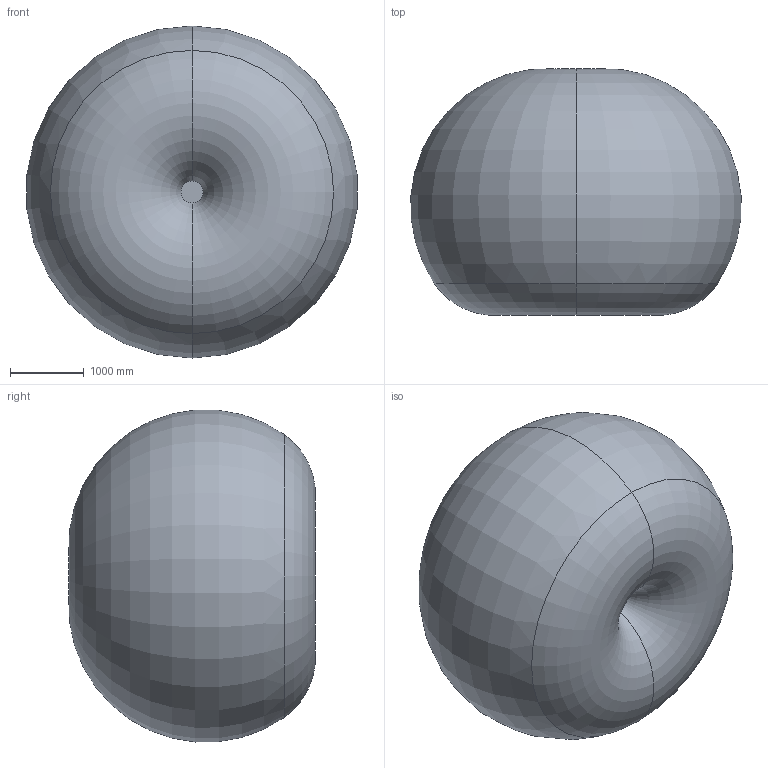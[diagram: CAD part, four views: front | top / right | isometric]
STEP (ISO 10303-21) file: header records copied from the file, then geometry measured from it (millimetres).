
FILE_DESCRIPTION (( 'STEP AP214' ), '1' );
FILE_NAME ('SMART-5 NJ-60-2.2_off-set (3D-STEP).STEP', '2014-05-15T07:26:06', ( '' ), ( '' ), 'SwSTEP 2.0', 'SolidWorks 2011', '' );
FILE_SCHEMA (( 'AUTOMOTIVE_DESIGN' ));
Length unit declared in the file: millimetre
Products named in the file (26): Operation Area SMART-5 NJ-60-2.2_off-set; SMART-5 NJ-60-2.2_off-set_cab04; SMART-5 NJ-60-2.2_off-set_cab01; SMART-5 NJ-60-2.2_off-set_cab02; SMART-5 NJ-60-2.2_off-set_cab03; SMART-5 NJ-60-2.2_off-set_p16; SMART-5 NJ-60-2.2_off-set_p15; SMART-5 NJ-60-2.2_off-set_p14; SMART-5 NJ-60-2.2_off-set_p13; SMART-5 NJ-60-2.2_off-set_p12; SMART-5 NJ-60-2.2_off-set_CR82350030; SMART-5 NJ-60-2.2_off-set_CR82350040; SMART-5 NJ-60-2.2_off-set_CR82350041; SMART-5 NJ-60-2.2_off-set_CR82350091; SMART-5 NJ-60-2.2_off-set_CR82350071; SMART-5 NJ-60-2.2_off-set_p10; SMART-5 NJ-60-2.2_off-set_p09; SMART-5 NJ-60-2.2_off-set_p08; SMART-5 NJ-60-2.2_off-set_p07; SMART-5 NJ-60-2.2_off-set_p06; SMART-5 NJ-60-2.2_off-set_p05; SMART-5 NJ-60-2.2_off-set_p04; SMART-5 NJ-60-2.2_off-set_p03; SMART-5 NJ-60-2.2_off-set_p02; SMART-5 NJ-60-2.2_off-set_p01; SMART-5 NJ-60-2.2_off-set (3D-STEP)
Assembly tree (29 placements, depth 2):
  SMART-5 NJ-60-2.2_off-set (3D-STEP)
    SMART-5 NJ-60-2.2_off-set_p15  x3
    SMART-5 NJ-60-2.2_off-set_p12
    SMART-5 NJ-60-2.2_off-set_CR82350030
    SMART-5 NJ-60-2.2_off-set_p03
    SMART-5 NJ-60-2.2_off-set_p16  x2
    SMART-5 NJ-60-2.2_off-set_CR82350040
    SMART-5 NJ-60-2.2_off-set_CR82350091
    SMART-5 NJ-60-2.2_off-set_p13
    SMART-5 NJ-60-2.2_off-set_p06
    SMART-5 NJ-60-2.2_off-set_p05
    SMART-5 NJ-60-2.2_off-set_p10
    SMART-5 NJ-60-2.2_off-set_p01
    SMART-5 NJ-60-2.2_off-set_CR82350041
    SMART-5 NJ-60-2.2_off-set_CR82350071  x2
    SMART-5 NJ-60-2.2_off-set_p04
    SMART-5 NJ-60-2.2_off-set_p09
    SMART-5 NJ-60-2.2_off-set_cab02
    SMART-5 NJ-60-2.2_off-set_cab03
    SMART-5 NJ-60-2.2_off-set_p02
    SMART-5 NJ-60-2.2_off-set_cab04
    Operation Area SMART-5 NJ-60-2.2_off-set
    SMART-5 NJ-60-2.2_off-set_cab01
    SMART-5 NJ-60-2.2_off-set_p07
    SMART-5 NJ-60-2.2_off-set_p14
    SMART-5 NJ-60-2.2_off-set_p08
Bounding box: 4480.72 x 3344.59 x 4505.4 mm (x, y, z)
Volume: 37570627805.2 mm3; surface area: 76501454.5 mm2
Topology: 37 solids, 37 shells, 4042 faces, 10743 edges, 6923 vertices
Faces by surface type: cylinder 1744, plane 1667, cone 272, torus 195, bspline 156, sphere 8
Entity records: 138700 total; most frequent: CARTESIAN_POINT 39104, ORIENTED_EDGE 19400, DIRECTION 19207, EDGE_CURVE 9700, AXIS2_PLACEMENT_3D 7164, VERTEX_POINT 6337, LINE 4879, VECTOR 4879
